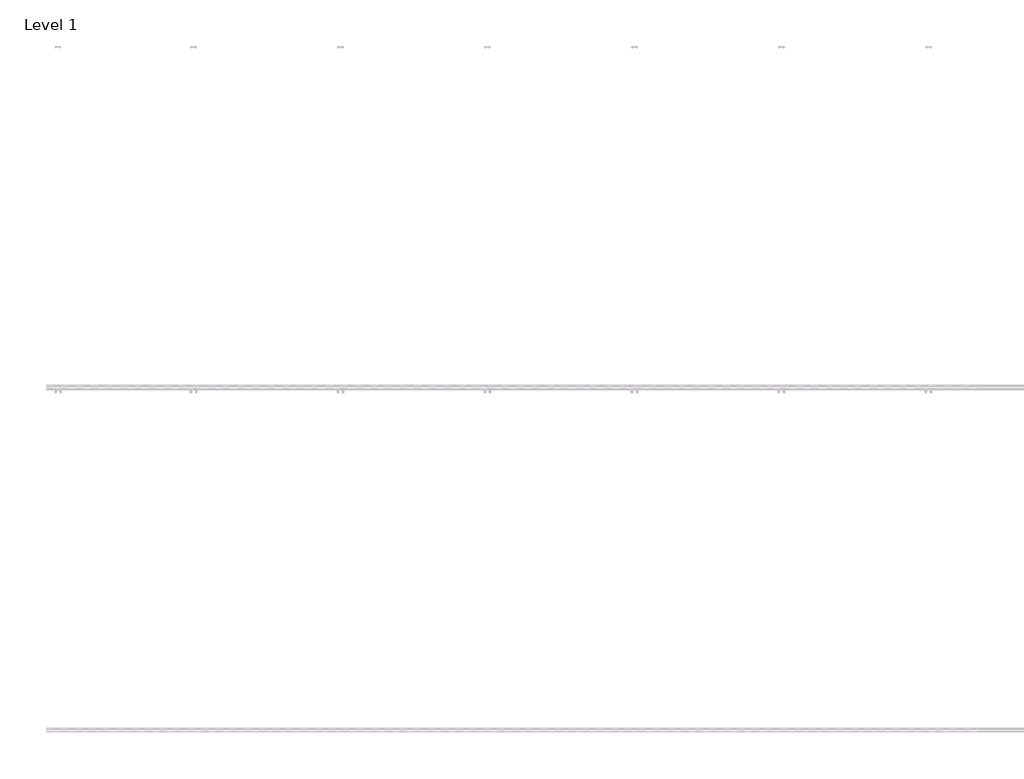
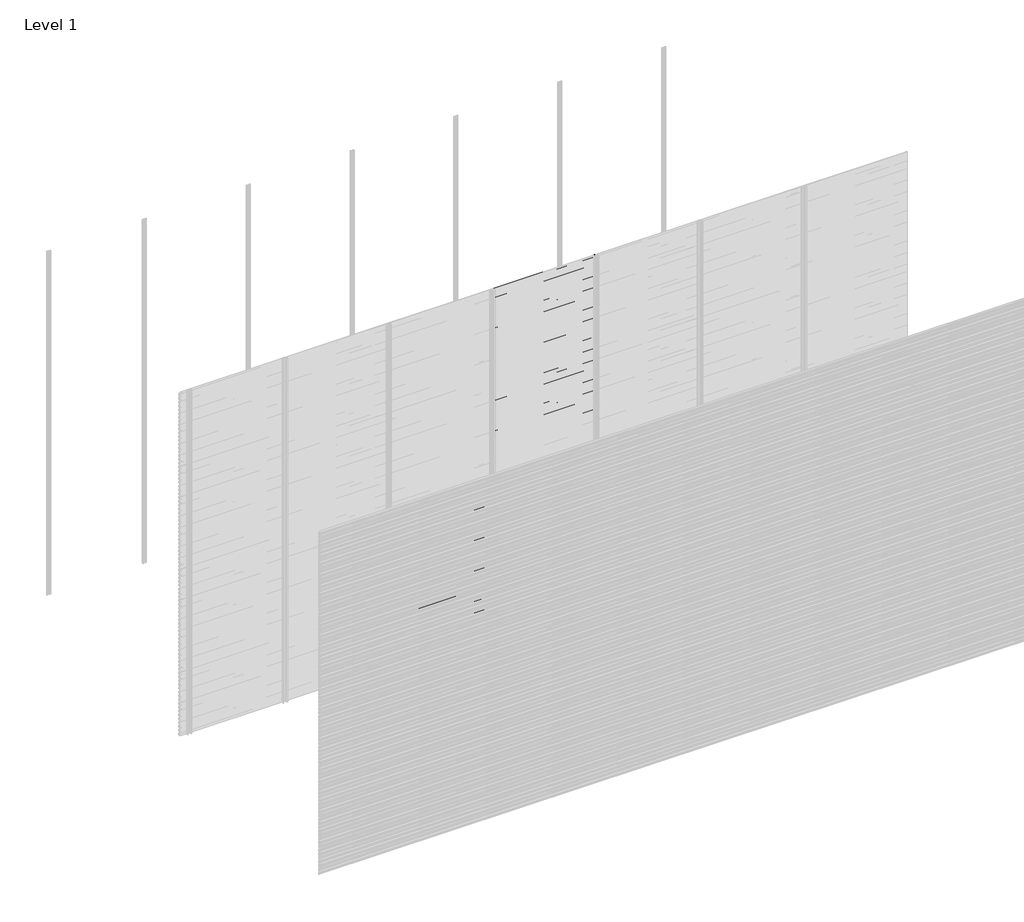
# One storey, part 83 of 96: 77 proxies.
"""IFC4 building model written with IfcOpenShell, lengths in millimetres."""

from ifc_helpers import new_model, si_unit, frame, origin, place, context, project, spatial, polyline, outline, extrude, element, save

model = new_model("IFC4")

# Units and contexts
model_context = context("Model", 3, world=origin())
ifc_project = project(units=[si_unit("LENGTHUNIT", "METRE", prefix="MILLI")], contexts=[model_context])

# Site, building, storey
site = spatial("IfcSite", under=ifc_project)
building = spatial("IfcBuilding", under=site)
storey = spatial("IfcBuildingStorey", under=building, Name="Level 1", Elevation=0.0)

# Proxies
placement = place(None, origin())
element("IfcBuildingElementProxy", 1, Name="Wall Sweeps", at=placement, inside=storey, context=model_context, shape_type="SweptSolid", body=[
    extrude(outline(polyline([(-5977.6, 1140.2655033), (-5977.6, 1125.9779188), (-5982.4114965, 1123.2), (-5982.4114965, 1124.4701706), (-5978.85, 1126.5264016), (-5978.85, 1139.5437382), (-5998.0, 1150.6000799), (-5998.0, 1165.5), (-5996.75, 1165.5), (-5996.75, 1151.3217609), (-5977.6, 1140.2655033)])), frame((1714.2857143, 0.0, 0.0), z_axis=(1.0, 0.0, 0.0), x_axis=(0.0, 1.0, 0.0)), (0.0, 0.0, 1.0), 857.1428571),
])
element("IfcBuildingElementProxy", 2, Name="Wall Sweeps", at=placement, inside=storey, context=model_context, shape_type="SweptSolid", body=[
    extrude(outline(polyline([(-5977.6, 1106.9655033), (-5977.6, 1092.6779188), (-5982.4114965, 1089.9), (-5982.4114965, 1091.1701706), (-5978.85, 1093.2264016), (-5978.85, 1106.2437382), (-5998.0, 1117.3000799), (-5998.0, 1132.2), (-5996.75, 1132.2), (-5996.75, 1118.0217609), (-5977.6, 1106.9655033)])), frame((1714.2857143, 0.0, 0.0), z_axis=(1.0, 0.0, 0.0), x_axis=(0.0, 1.0, 0.0)), (0.0, 0.0, 1.0), 857.1428571),
])
element("IfcBuildingElementProxy", 3, Name="Wall Sweeps", at=placement, inside=storey, context=model_context, shape_type="SweptSolid", body=[
    extrude(outline(polyline([(-5977.6, 1073.6655033), (-5977.6, 1059.3779188), (-5982.4114965, 1056.6), (-5982.4114965, 1057.8701706), (-5978.85, 1059.9264016), (-5978.85, 1072.9437382), (-5998.0, 1084.0000799), (-5998.0, 1098.9), (-5996.75, 1098.9), (-5996.75, 1084.7217609), (-5977.6, 1073.6655033)])), frame((1714.2857143, 0.0, 0.0), z_axis=(1.0, 0.0, 0.0), x_axis=(0.0, 1.0, 0.0)), (0.0, 0.0, 1.0), 857.1428571),
])
element("IfcBuildingElementProxy", 4, Name="Wall Sweeps", at=placement, inside=storey, context=model_context, shape_type="SweptSolid", body=[
    extrude(outline(polyline([(-5977.6, 1040.3655033), (-5977.6, 1026.0779188), (-5982.4114965, 1023.3), (-5982.4114965, 1024.5701706), (-5978.85, 1026.6264016), (-5978.85, 1039.6437382), (-5998.0, 1050.7000799), (-5998.0, 1065.6), (-5996.75, 1065.6), (-5996.75, 1051.4217609), (-5977.6, 1040.3655033)])), frame((1714.2857143, 0.0, 0.0), z_axis=(1.0, 0.0, 0.0), x_axis=(0.0, 1.0, 0.0)), (0.0, 0.0, 1.0), 857.1428571),
])
element("IfcBuildingElementProxy", 5, Name="Wall Sweeps", at=placement, inside=storey, context=model_context, shape_type="SweptSolid", body=[
    extrude(outline(polyline([(-5977.6, 1007.0655033), (-5977.6, 992.7779188), (-5982.4114965, 990.0), (-5982.4114965, 991.2701706), (-5978.85, 993.3264016), (-5978.85, 1006.3437382), (-5998.0, 1017.4000799), (-5998.0, 1032.3), (-5996.75, 1032.3), (-5996.75, 1018.1217609), (-5977.6, 1007.0655033)])), frame((1714.2857143, 0.0, 0.0), z_axis=(1.0, 0.0, 0.0), x_axis=(0.0, 1.0, 0.0)), (0.0, 0.0, 1.0), 857.1428571),
])
element("IfcBuildingElementProxy", 6, Name="Wall Sweeps", at=placement, inside=storey, context=model_context, shape_type="SweptSolid", body=[
    extrude(outline(polyline([(-5977.6, 973.7655033), (-5977.6, 959.4779188), (-5982.4114965, 956.7), (-5982.4114965, 957.9701706), (-5978.85, 960.0264016), (-5978.85, 973.0437382), (-5998.0, 984.1000799), (-5998.0, 999.0), (-5996.75, 999.0), (-5996.75, 984.8217609), (-5977.6, 973.7655033)])), frame((1714.2857143, 0.0, 0.0), z_axis=(1.0, 0.0, 0.0), x_axis=(0.0, 1.0, 0.0)), (0.0, 0.0, 1.0), 857.1428571),
])
element("IfcBuildingElementProxy", 7, Name="Wall Sweeps", at=placement, inside=storey, context=model_context, shape_type="SweptSolid", body=[
    extrude(outline(polyline([(-5977.6, 940.4655033), (-5977.6, 926.1779188), (-5982.4114965, 923.4), (-5982.4114965, 924.6701706), (-5978.85, 926.7264016), (-5978.85, 939.7437382), (-5998.0, 950.8000799), (-5998.0, 965.7), (-5996.75, 965.7), (-5996.75, 951.5217609), (-5977.6, 940.4655033)])), frame((1714.2857143, 0.0, 0.0), z_axis=(1.0, 0.0, 0.0), x_axis=(0.0, 1.0, 0.0)), (0.0, 0.0, 1.0), 857.1428571),
])
element("IfcBuildingElementProxy", 8, Name="Wall Sweeps", at=placement, inside=storey, context=model_context, shape_type="SweptSolid", body=[
    extrude(outline(polyline([(-5977.6, 907.1655033), (-5977.6, 892.8779188), (-5982.4114965, 890.1), (-5982.4114965, 891.3701706), (-5978.85, 893.4264016), (-5978.85, 906.4437382), (-5998.0, 917.5000799), (-5998.0, 932.4), (-5996.75, 932.4), (-5996.75, 918.2217609), (-5977.6, 907.1655033)])), frame((1714.2857143, 0.0, 0.0), z_axis=(1.0, 0.0, 0.0), x_axis=(0.0, 1.0, 0.0)), (0.0, 0.0, 1.0), 857.1428571),
])
element("IfcBuildingElementProxy", 9, Name="Wall Sweeps", at=placement, inside=storey, context=model_context, shape_type="SweptSolid", body=[
    extrude(outline(polyline([(-5977.6, 873.8655033), (-5977.6, 859.5779188), (-5982.4114965, 856.8), (-5982.4114965, 858.0701706), (-5978.85, 860.1264016), (-5978.85, 873.1437382), (-5998.0, 884.2000799), (-5998.0, 899.1), (-5996.75, 899.1), (-5996.75, 884.9217609), (-5977.6, 873.8655033)])), frame((1714.2857143, 0.0, 0.0), z_axis=(1.0, 0.0, 0.0), x_axis=(0.0, 1.0, 0.0)), (0.0, 0.0, 1.0), 857.1428571),
])
element("IfcBuildingElementProxy", 10, Name="Wall Sweeps", at=placement, inside=storey, context=model_context, shape_type="SweptSolid", body=[
    extrude(outline(polyline([(-5977.6, 840.5655033), (-5977.6, 826.2779188), (-5982.4114965, 823.5), (-5982.4114965, 824.7701706), (-5978.85, 826.8264016), (-5978.85, 839.8437382), (-5998.0, 850.9000799), (-5998.0, 865.8), (-5996.75, 865.8), (-5996.75, 851.6217609), (-5977.6, 840.5655033)])), frame((1714.2857143, 0.0, 0.0), z_axis=(1.0, 0.0, 0.0), x_axis=(0.0, 1.0, 0.0)), (0.0, 0.0, 1.0), 857.1428571),
])
element("IfcBuildingElementProxy", 11, Name="Wall Sweeps", at=placement, inside=storey, context=model_context, shape_type="SweptSolid", body=[
    extrude(outline(polyline([(-5977.6, 807.2655033), (-5977.6, 792.9779188), (-5982.4114965, 790.2), (-5982.4114965, 791.4701706), (-5978.85, 793.5264016), (-5978.85, 806.5437382), (-5998.0, 817.6000799), (-5998.0, 832.5), (-5996.75, 832.5), (-5996.75, 818.3217609), (-5977.6, 807.2655033)])), frame((1714.2857143, 0.0, 0.0), z_axis=(1.0, 0.0, 0.0), x_axis=(0.0, 1.0, 0.0)), (0.0, 0.0, 1.0), 857.1428571),
])
element("IfcBuildingElementProxy", 12, Name="Wall Sweeps", at=placement, inside=storey, context=model_context, shape_type="SweptSolid", body=[
    extrude(outline(polyline([(-5977.6, 773.9655033), (-5977.6, 759.6779188), (-5982.4114965, 756.9), (-5982.4114965, 758.1701706), (-5978.85, 760.2264016), (-5978.85, 773.2437382), (-5998.0, 784.3000799), (-5998.0, 799.2), (-5996.75, 799.2), (-5996.75, 785.0217609), (-5977.6, 773.9655033)])), frame((1714.2857143, 0.0, 0.0), z_axis=(1.0, 0.0, 0.0), x_axis=(0.0, 1.0, 0.0)), (0.0, 0.0, 1.0), 857.1428571),
])
element("IfcBuildingElementProxy", 13, Name="Wall Sweeps", at=placement, inside=storey, context=model_context, shape_type="SweptSolid", body=[
    extrude(outline(polyline([(-5977.6, 740.6655033), (-5977.6, 726.3779188), (-5982.4114965, 723.6), (-5982.4114965, 724.8701706), (-5978.85, 726.9264016), (-5978.85, 739.9437382), (-5998.0, 751.0000799), (-5998.0, 765.9), (-5996.75, 765.9), (-5996.75, 751.7217609), (-5977.6, 740.6655033)])), frame((1714.2857143, 0.0, 0.0), z_axis=(1.0, 0.0, 0.0), x_axis=(0.0, 1.0, 0.0)), (0.0, 0.0, 1.0), 857.1428571),
])
element("IfcBuildingElementProxy", 14, Name="Wall Sweeps", at=placement, inside=storey, context=model_context, shape_type="SweptSolid", body=[
    extrude(outline(polyline([(-5977.6, 707.3655033), (-5977.6, 693.0779188), (-5982.4114965, 690.3), (-5982.4114965, 691.5701706), (-5978.85, 693.6264016), (-5978.85, 706.6437382), (-5998.0, 717.7000799), (-5998.0, 732.6), (-5996.75, 732.6), (-5996.75, 718.4217609), (-5977.6, 707.3655033)])), frame((1714.2857143, 0.0, 0.0), z_axis=(1.0, 0.0, 0.0), x_axis=(0.0, 1.0, 0.0)), (0.0, 0.0, 1.0), 857.1428571),
])
element("IfcBuildingElementProxy", 15, Name="Wall Sweeps", at=placement, inside=storey, context=model_context, shape_type="SweptSolid", body=[
    extrude(outline(polyline([(-5977.6, 674.0655033), (-5977.6, 659.7779188), (-5982.4114965, 657.0), (-5982.4114965, 658.2701706), (-5978.85, 660.3264016), (-5978.85, 673.3437382), (-5998.0, 684.4000799), (-5998.0, 699.3), (-5996.75, 699.3), (-5996.75, 685.1217609), (-5977.6, 674.0655033)])), frame((1714.2857143, 0.0, 0.0), z_axis=(1.0, 0.0, 0.0), x_axis=(0.0, 1.0, 0.0)), (0.0, 0.0, 1.0), 857.1428571),
])
element("IfcBuildingElementProxy", 16, Name="Wall Sweeps", at=placement, inside=storey, context=model_context, shape_type="SweptSolid", body=[
    extrude(outline(polyline([(-5977.6, 640.7655033), (-5977.6, 626.4779188), (-5982.4114965, 623.7), (-5982.4114965, 624.9701706), (-5978.85, 627.0264016), (-5978.85, 640.0437382), (-5998.0, 651.1000799), (-5998.0, 666.0), (-5996.75, 666.0), (-5996.75, 651.8217609), (-5977.6, 640.7655033)])), frame((1714.2857143, 0.0, 0.0), z_axis=(1.0, 0.0, 0.0), x_axis=(0.0, 1.0, 0.0)), (0.0, 0.0, 1.0), 857.1428571),
])
element("IfcBuildingElementProxy", 17, Name="Wall Sweeps", at=placement, inside=storey, context=model_context, shape_type="SweptSolid", body=[
    extrude(outline(polyline([(-5977.6, 607.4655033), (-5977.6, 593.1779188), (-5982.4114965, 590.4), (-5982.4114965, 591.6701706), (-5978.85, 593.7264016), (-5978.85, 606.7437382), (-5998.0, 617.8000799), (-5998.0, 632.7), (-5996.75, 632.7), (-5996.75, 618.5217609), (-5977.6, 607.4655033)])), frame((1714.2857143, 0.0, 0.0), z_axis=(1.0, 0.0, 0.0), x_axis=(0.0, 1.0, 0.0)), (0.0, 0.0, 1.0), 857.1428571),
])
element("IfcBuildingElementProxy", 18, Name="Wall Sweeps", at=placement, inside=storey, context=model_context, shape_type="SweptSolid", body=[
    extrude(outline(polyline([(-5977.6, 574.1655033), (-5977.6, 559.8779188), (-5982.4114965, 557.1), (-5982.4114965, 558.3701706), (-5978.85, 560.4264016), (-5978.85, 573.4437382), (-5998.0, 584.5000799), (-5998.0, 599.4), (-5996.75, 599.4), (-5996.75, 585.2217609), (-5977.6, 574.1655033)])), frame((1714.2857143, 0.0, 0.0), z_axis=(1.0, 0.0, 0.0), x_axis=(0.0, 1.0, 0.0)), (0.0, 0.0, 1.0), 857.1428571),
])
element("IfcBuildingElementProxy", 19, Name="Wall Sweeps", at=placement, inside=storey, context=model_context, shape_type="SweptSolid", body=[
    extrude(outline(polyline([(-5977.6, 540.8655033), (-5977.6, 526.5779188), (-5982.4114965, 523.8), (-5982.4114965, 525.0701706), (-5978.85, 527.1264016), (-5978.85, 540.1437382), (-5998.0, 551.2000799), (-5998.0, 566.1), (-5996.75, 566.1), (-5996.75, 551.9217609), (-5977.6, 540.8655033)])), frame((1714.2857143, 0.0, 0.0), z_axis=(1.0, 0.0, 0.0), x_axis=(0.0, 1.0, 0.0)), (0.0, 0.0, 1.0), 857.1428571),
])
element("IfcBuildingElementProxy", 20, Name="Wall Sweeps", at=placement, inside=storey, context=model_context, shape_type="SweptSolid", body=[
    extrude(outline(polyline([(-5977.6, 507.5655033), (-5977.6, 493.2779188), (-5982.4114965, 490.5), (-5982.4114965, 491.7701706), (-5978.85, 493.8264016), (-5978.85, 506.8437382), (-5998.0, 517.9000799), (-5998.0, 532.8), (-5996.75, 532.8), (-5996.75, 518.6217609), (-5977.6, 507.5655033)])), frame((1714.2857143, 0.0, 0.0), z_axis=(1.0, 0.0, 0.0), x_axis=(0.0, 1.0, 0.0)), (0.0, 0.0, 1.0), 857.1428571),
])
element("IfcBuildingElementProxy", 21, Name="Wall Sweeps", at=placement, inside=storey, context=model_context, shape_type="SweptSolid", body=[
    extrude(outline(polyline([(-5977.6, 474.2655033), (-5977.6, 459.9779188), (-5982.4114965, 457.2), (-5982.4114965, 458.4701706), (-5978.85, 460.5264016), (-5978.85, 473.5437382), (-5998.0, 484.6000799), (-5998.0, 499.5), (-5996.75, 499.5), (-5996.75, 485.3217609), (-5977.6, 474.2655033)])), frame((1714.2857143, 0.0, 0.0), z_axis=(1.0, 0.0, 0.0), x_axis=(0.0, 1.0, 0.0)), (0.0, 0.0, 1.0), 857.1428571),
])
element("IfcBuildingElementProxy", 22, Name="Wall Sweeps", at=placement, inside=storey, context=model_context, shape_type="SweptSolid", body=[
    extrude(outline(polyline([(-5977.6, 440.9655033), (-5977.6, 426.6779188), (-5982.4114965, 423.9), (-5982.4114965, 425.1701706), (-5978.85, 427.2264016), (-5978.85, 440.2437382), (-5998.0, 451.3000799), (-5998.0, 466.2), (-5996.75, 466.2), (-5996.75, 452.0217609), (-5977.6, 440.9655033)])), frame((1714.2857143, 0.0, 0.0), z_axis=(1.0, 0.0, 0.0), x_axis=(0.0, 1.0, 0.0)), (0.0, 0.0, 1.0), 857.1428571),
])
element("IfcBuildingElementProxy", 23, Name="Wall Sweeps", at=placement, inside=storey, context=model_context, shape_type="SweptSolid", body=[
    extrude(outline(polyline([(-5977.6, 407.6655033), (-5977.6, 393.3779188), (-5982.4114965, 390.6), (-5982.4114965, 391.8701706), (-5978.85, 393.9264016), (-5978.85, 406.9437382), (-5998.0, 418.0000799), (-5998.0, 432.9), (-5996.75, 432.9), (-5996.75, 418.7217609), (-5977.6, 407.6655033)])), frame((1714.2857143, 0.0, 0.0), z_axis=(1.0, 0.0, 0.0), x_axis=(0.0, 1.0, 0.0)), (0.0, 0.0, 1.0), 857.1428571),
])
element("IfcBuildingElementProxy", 24, Name="Wall Sweeps", at=placement, inside=storey, context=model_context, shape_type="SweptSolid", body=[
    extrude(outline(polyline([(-5977.6, 374.3655033), (-5977.6, 360.0779188), (-5982.4114965, 357.3), (-5982.4114965, 358.5701706), (-5978.85, 360.6264016), (-5978.85, 373.6437382), (-5998.0, 384.7000799), (-5998.0, 399.6), (-5996.75, 399.6), (-5996.75, 385.4217609), (-5977.6, 374.3655033)])), frame((1714.2857143, 0.0, 0.0), z_axis=(1.0, 0.0, 0.0), x_axis=(0.0, 1.0, 0.0)), (0.0, 0.0, 1.0), 857.1428571),
])
element("IfcBuildingElementProxy", 25, Name="Wall Sweeps", at=placement, inside=storey, context=model_context, shape_type="SweptSolid", body=[
    extrude(outline(polyline([(-5977.6, 341.0655033), (-5977.6, 326.7779188), (-5982.4114965, 324.0), (-5982.4114965, 325.2701706), (-5978.85, 327.3264016), (-5978.85, 340.3437382), (-5998.0, 351.4000799), (-5998.0, 366.3), (-5996.75, 366.3), (-5996.75, 352.1217609), (-5977.6, 341.0655033)])), frame((1714.2857143, 0.0, 0.0), z_axis=(1.0, 0.0, 0.0), x_axis=(0.0, 1.0, 0.0)), (0.0, 0.0, 1.0), 857.1428571),
])
element("IfcBuildingElementProxy", 26, Name="Wall Sweeps", at=placement, inside=storey, context=model_context, shape_type="SweptSolid", body=[
    extrude(outline(polyline([(-5977.6, 307.7655033), (-5977.6, 293.4779188), (-5982.4114965, 290.7), (-5982.4114965, 291.9701706), (-5978.85, 294.0264016), (-5978.85, 307.0437382), (-5998.0, 318.1000799), (-5998.0, 333.0), (-5996.75, 333.0), (-5996.75, 318.8217609), (-5977.6, 307.7655033)])), frame((1714.2857143, 0.0, 0.0), z_axis=(1.0, 0.0, 0.0), x_axis=(0.0, 1.0, 0.0)), (0.0, 0.0, 1.0), 857.1428571),
])
element("IfcBuildingElementProxy", 27, Name="Wall Sweeps", at=placement, inside=storey, context=model_context, shape_type="SweptSolid", body=[
    extrude(outline(polyline([(-5977.6, 274.4655033), (-5977.6, 260.1779188), (-5982.4114965, 257.4), (-5982.4114965, 258.6701706), (-5978.85, 260.7264016), (-5978.85, 273.7437382), (-5998.0, 284.8000799), (-5998.0, 299.7), (-5996.75, 299.7), (-5996.75, 285.5217609), (-5977.6, 274.4655033)])), frame((1714.2857143, 0.0, 0.0), z_axis=(1.0, 0.0, 0.0), x_axis=(0.0, 1.0, 0.0)), (0.0, 0.0, 1.0), 857.1428571),
])
element("IfcBuildingElementProxy", 28, Name="Wall Sweeps", at=placement, inside=storey, context=model_context, shape_type="SweptSolid", body=[
    extrude(outline(polyline([(-5977.6, 241.1655033), (-5977.6, 226.8779188), (-5982.4114965, 224.1), (-5982.4114965, 225.3701706), (-5978.85, 227.4264016), (-5978.85, 240.4437382), (-5998.0, 251.5000799), (-5998.0, 266.4), (-5996.75, 266.4), (-5996.75, 252.2217609), (-5977.6, 241.1655033)])), frame((1714.2857143, 0.0, 0.0), z_axis=(1.0, 0.0, 0.0), x_axis=(0.0, 1.0, 0.0)), (0.0, 0.0, 1.0), 857.1428571),
])
element("IfcBuildingElementProxy", 29, Name="Wall Sweeps", at=placement, inside=storey, context=model_context, shape_type="SweptSolid", body=[
    extrude(outline(polyline([(-5977.6, 207.8655033), (-5977.6, 193.5779188), (-5982.4114965, 190.8), (-5982.4114965, 192.0701706), (-5978.85, 194.1264016), (-5978.85, 207.1437382), (-5998.0, 218.2000799), (-5998.0, 233.1), (-5996.75, 233.1), (-5996.75, 218.9217609), (-5977.6, 207.8655033)])), frame((1714.2857143, 0.0, 0.0), z_axis=(1.0, 0.0, 0.0), x_axis=(0.0, 1.0, 0.0)), (0.0, 0.0, 1.0), 857.1428571),
])
element("IfcBuildingElementProxy", 30, Name="Wall Sweeps", at=placement, inside=storey, context=model_context, shape_type="SweptSolid", body=[
    extrude(outline(polyline([(-5977.6, 174.5655033), (-5977.6, 160.2779188), (-5982.4114965, 157.5), (-5982.4114965, 158.7701706), (-5978.85, 160.8264016), (-5978.85, 173.8437382), (-5998.0, 184.9000799), (-5998.0, 199.8), (-5996.75, 199.8), (-5996.75, 185.6217609), (-5977.6, 174.5655033)])), frame((1714.2857143, 0.0, 0.0), z_axis=(1.0, 0.0, 0.0), x_axis=(0.0, 1.0, 0.0)), (0.0, 0.0, 1.0), 857.1428571),
])
element("IfcBuildingElementProxy", 31, Name="Wall Sweeps", at=placement, inside=storey, context=model_context, shape_type="SweptSolid", body=[
    extrude(outline(polyline([(-5977.6, 141.2655033), (-5977.6, 126.9779188), (-5982.4114965, 124.2), (-5982.4114965, 125.4701706), (-5978.85, 127.5264016), (-5978.85, 140.5437382), (-5998.0, 151.6000799), (-5998.0, 166.5), (-5996.75, 166.5), (-5996.75, 152.3217609), (-5977.6, 141.2655033)])), frame((1714.2857143, 0.0, 0.0), z_axis=(1.0, 0.0, 0.0), x_axis=(0.0, 1.0, 0.0)), (0.0, 0.0, 1.0), 857.1428571),
])
element("IfcBuildingElementProxy", 32, Name="Wall Sweeps", at=placement, inside=storey, context=model_context, shape_type="SweptSolid", body=[
    extrude(outline(polyline([(-5977.6, 107.9655033), (-5977.6, 93.6779188), (-5982.4114965, 90.9), (-5982.4114965, 92.1701706), (-5978.85, 94.2264016), (-5978.85, 107.2437382), (-5998.0, 118.3000799), (-5998.0, 133.2), (-5996.75, 133.2), (-5996.75, 119.0217609), (-5977.6, 107.9655033)])), frame((1714.2857143, 0.0, 0.0), z_axis=(1.0, 0.0, 0.0), x_axis=(0.0, 1.0, 0.0)), (0.0, 0.0, 1.0), 857.1428571),
])
element("IfcBuildingElementProxy", 33, Name="Wall Sweeps", at=placement, inside=storey, context=model_context, shape_type="SweptSolid", body=[
    extrude(outline(polyline([(-5977.6, 74.6655033), (-5977.6, 60.3779188), (-5982.4114965, 57.6), (-5982.4114965, 58.8701706), (-5978.85, 60.9264016), (-5978.85, 73.9437382), (-5998.0, 85.0000799), (-5998.0, 99.9), (-5996.75, 99.9), (-5996.75, 85.7217609), (-5977.6, 74.6655033)])), frame((1714.2857143, 0.0, 0.0), z_axis=(1.0, 0.0, 0.0), x_axis=(0.0, 1.0, 0.0)), (0.0, 0.0, 1.0), 857.1428571),
])
element("IfcBuildingElementProxy", 34, Name="Wall Sweeps", at=placement, inside=storey, context=model_context, shape_type="SweptSolid", body=[
    extrude(outline(polyline([(-5977.6, 41.3655033), (-5977.6, 27.0779188), (-5982.4114965, 24.3), (-5982.4114965, 25.5701706), (-5978.85, 27.6264016), (-5978.85, 40.6437382), (-5998.0, 51.7000799), (-5998.0, 66.6), (-5996.75, 66.6), (-5996.75, 52.4217609), (-5977.6, 41.3655033)])), frame((1714.2857143, 0.0, 0.0), z_axis=(1.0, 0.0, 0.0), x_axis=(0.0, 1.0, 0.0)), (0.0, 0.0, 1.0), 857.1428571),
])
element("IfcBuildingElementProxy", 35, Name="Wall Sweeps", at=placement, inside=storey, context=model_context, shape_type="SweptSolid", body=[
    extrude(outline(polyline([(-5977.6, 8.0655033), (-5977.6, -6.2220812), (-5982.4114965, -9.0), (-5982.4114965, -7.7298294), (-5978.85, -5.6735984), (-5978.85, 7.3437382), (-5998.0, 18.4000799), (-5998.0, 33.3), (-5996.75, 33.3), (-5996.75, 19.1217609), (-5977.6, 8.0655033)])), frame((1714.2857143, 0.0, 0.0), z_axis=(1.0, 0.0, 0.0), x_axis=(0.0, 1.0, 0.0)), (0.0, 0.0, 1.0), 857.1428571),
])
element("IfcBuildingElementProxy", 36, Name="Wall Sweeps", at=placement, inside=storey, context=model_context, shape_type="SweptSolid", body=[
    extrude(outline(polyline([(-5977.6, 2971.7655033), (-5977.6, 2957.4779188), (-5982.4114965, 2954.7), (-5982.4114965, 2955.9701706), (-5978.85, 2958.0264016), (-5978.85, 2971.0437382), (-5998.0, 2982.1000799), (-5998.0, 2997.0), (-5996.75, 2997.0), (-5996.75, 2982.8217609), (-5977.6, 2971.7655033)])), frame((2571.4285714, 0.0, 0.0), z_axis=(1.0, 0.0, 0.0), x_axis=(0.0, 1.0, 0.0)), (0.0, 0.0, 1.0), 857.1428571),
])
element("IfcBuildingElementProxy", 37, Name="Wall Sweeps", at=placement, inside=storey, context=model_context, shape_type="SweptSolid", body=[
    extrude(outline(polyline([(-5977.6, 2938.4655033), (-5977.6, 2924.1779188), (-5982.4114965, 2921.4), (-5982.4114965, 2922.6701706), (-5978.85, 2924.7264016), (-5978.85, 2937.7437382), (-5998.0, 2948.8000799), (-5998.0, 2963.7), (-5996.75, 2963.7), (-5996.75, 2949.5217609), (-5977.6, 2938.4655033)])), frame((2571.4285714, 0.0, 0.0), z_axis=(1.0, 0.0, 0.0), x_axis=(0.0, 1.0, 0.0)), (0.0, 0.0, 1.0), 857.1428571),
])
element("IfcBuildingElementProxy", 38, Name="Wall Sweeps", at=placement, inside=storey, context=model_context, shape_type="SweptSolid", body=[
    extrude(outline(polyline([(-5977.6, 2905.1655033), (-5977.6, 2890.8779188), (-5982.4114965, 2888.1), (-5982.4114965, 2889.3701706), (-5978.85, 2891.4264016), (-5978.85, 2904.4437382), (-5998.0, 2915.5000799), (-5998.0, 2930.4), (-5996.75, 2930.4), (-5996.75, 2916.2217609), (-5977.6, 2905.1655033)])), frame((2571.4285714, 0.0, 0.0), z_axis=(1.0, 0.0, 0.0), x_axis=(0.0, 1.0, 0.0)), (0.0, 0.0, 1.0), 857.1428571),
])
element("IfcBuildingElementProxy", 39, Name="Wall Sweeps", at=placement, inside=storey, context=model_context, shape_type="SweptSolid", body=[
    extrude(outline(polyline([(-5977.6, 2871.8655033), (-5977.6, 2857.5779188), (-5982.4114965, 2854.8), (-5982.4114965, 2856.0701706), (-5978.85, 2858.1264016), (-5978.85, 2871.1437382), (-5998.0, 2882.2000799), (-5998.0, 2897.1), (-5996.75, 2897.1), (-5996.75, 2882.9217609), (-5977.6, 2871.8655033)])), frame((2571.4285714, 0.0, 0.0), z_axis=(1.0, 0.0, 0.0), x_axis=(0.0, 1.0, 0.0)), (0.0, 0.0, 1.0), 857.1428571),
])
element("IfcBuildingElementProxy", 40, Name="Wall Sweeps", at=placement, inside=storey, context=model_context, shape_type="SweptSolid", body=[
    extrude(outline(polyline([(-5977.6, 2838.5655033), (-5977.6, 2824.2779188), (-5982.4114965, 2821.5), (-5982.4114965, 2822.7701706), (-5978.85, 2824.8264016), (-5978.85, 2837.8437382), (-5998.0, 2848.9000799), (-5998.0, 2863.8), (-5996.75, 2863.8), (-5996.75, 2849.6217609), (-5977.6, 2838.5655033)])), frame((2571.4285714, 0.0, 0.0), z_axis=(1.0, 0.0, 0.0), x_axis=(0.0, 1.0, 0.0)), (0.0, 0.0, 1.0), 857.1428571),
])
element("IfcBuildingElementProxy", 41, Name="Wall Sweeps", at=placement, inside=storey, context=model_context, shape_type="SweptSolid", body=[
    extrude(outline(polyline([(-5977.6, 2805.2655033), (-5977.6, 2790.9779188), (-5982.4114965, 2788.2), (-5982.4114965, 2789.4701706), (-5978.85, 2791.5264016), (-5978.85, 2804.5437382), (-5998.0, 2815.6000799), (-5998.0, 2830.5), (-5996.75, 2830.5), (-5996.75, 2816.3217609), (-5977.6, 2805.2655033)])), frame((2571.4285714, 0.0, 0.0), z_axis=(1.0, 0.0, 0.0), x_axis=(0.0, 1.0, 0.0)), (0.0, 0.0, 1.0), 857.1428571),
])
element("IfcBuildingElementProxy", 42, Name="Wall Sweeps", at=placement, inside=storey, context=model_context, shape_type="SweptSolid", body=[
    extrude(outline(polyline([(-5977.6, 2771.9655033), (-5977.6, 2757.6779188), (-5982.4114965, 2754.9), (-5982.4114965, 2756.1701706), (-5978.85, 2758.2264016), (-5978.85, 2771.2437382), (-5998.0, 2782.3000799), (-5998.0, 2797.2), (-5996.75, 2797.2), (-5996.75, 2783.0217609), (-5977.6, 2771.9655033)])), frame((2571.4285714, 0.0, 0.0), z_axis=(1.0, 0.0, 0.0), x_axis=(0.0, 1.0, 0.0)), (0.0, 0.0, 1.0), 857.1428571),
])
element("IfcBuildingElementProxy", 43, Name="Wall Sweeps", at=placement, inside=storey, context=model_context, shape_type="SweptSolid", body=[
    extrude(outline(polyline([(-5977.6, 2738.6655033), (-5977.6, 2724.3779188), (-5982.4114965, 2721.6), (-5982.4114965, 2722.8701706), (-5978.85, 2724.9264016), (-5978.85, 2737.9437382), (-5998.0, 2749.0000799), (-5998.0, 2763.9), (-5996.75, 2763.9), (-5996.75, 2749.7217609), (-5977.6, 2738.6655033)])), frame((2571.4285714, 0.0, 0.0), z_axis=(1.0, 0.0, 0.0), x_axis=(0.0, 1.0, 0.0)), (0.0, 0.0, 1.0), 857.1428571),
])
element("IfcBuildingElementProxy", 44, Name="Wall Sweeps", at=placement, inside=storey, context=model_context, shape_type="SweptSolid", body=[
    extrude(outline(polyline([(-5977.6, 2705.3655033), (-5977.6, 2691.0779188), (-5982.4114965, 2688.3), (-5982.4114965, 2689.5701706), (-5978.85, 2691.6264016), (-5978.85, 2704.6437382), (-5998.0, 2715.7000799), (-5998.0, 2730.6), (-5996.75, 2730.6), (-5996.75, 2716.4217609), (-5977.6, 2705.3655033)])), frame((2571.4285714, 0.0, 0.0), z_axis=(1.0, 0.0, 0.0), x_axis=(0.0, 1.0, 0.0)), (0.0, 0.0, 1.0), 857.1428571),
])
element("IfcBuildingElementProxy", 45, Name="Wall Sweeps", at=placement, inside=storey, context=model_context, shape_type="SweptSolid", body=[
    extrude(outline(polyline([(-5977.6, 2672.0655033), (-5977.6, 2657.7779188), (-5982.4114965, 2655.0), (-5982.4114965, 2656.2701706), (-5978.85, 2658.3264016), (-5978.85, 2671.3437382), (-5998.0, 2682.4000799), (-5998.0, 2697.3), (-5996.75, 2697.3), (-5996.75, 2683.1217609), (-5977.6, 2672.0655033)])), frame((2571.4285714, 0.0, 0.0), z_axis=(1.0, 0.0, 0.0), x_axis=(0.0, 1.0, 0.0)), (0.0, 0.0, 1.0), 857.1428571),
])
element("IfcBuildingElementProxy", 46, Name="Wall Sweeps", at=placement, inside=storey, context=model_context, shape_type="SweptSolid", body=[
    extrude(outline(polyline([(-5977.6, 2638.7655033), (-5977.6, 2624.4779188), (-5982.4114965, 2621.7), (-5982.4114965, 2622.9701706), (-5978.85, 2625.0264016), (-5978.85, 2638.0437382), (-5998.0, 2649.1000799), (-5998.0, 2664.0), (-5996.75, 2664.0), (-5996.75, 2649.8217609), (-5977.6, 2638.7655033)])), frame((2571.4285714, 0.0, 0.0), z_axis=(1.0, 0.0, 0.0), x_axis=(0.0, 1.0, 0.0)), (0.0, 0.0, 1.0), 857.1428571),
])
element("IfcBuildingElementProxy", 47, Name="Wall Sweeps", at=placement, inside=storey, context=model_context, shape_type="SweptSolid", body=[
    extrude(outline(polyline([(-5977.6, 2605.4655033), (-5977.6, 2591.1779188), (-5982.4114965, 2588.4), (-5982.4114965, 2589.6701706), (-5978.85, 2591.7264016), (-5978.85, 2604.7437382), (-5998.0, 2615.8000799), (-5998.0, 2630.7), (-5996.75, 2630.7), (-5996.75, 2616.5217609), (-5977.6, 2605.4655033)])), frame((2571.4285714, 0.0, 0.0), z_axis=(1.0, 0.0, 0.0), x_axis=(0.0, 1.0, 0.0)), (0.0, 0.0, 1.0), 857.1428571),
])
element("IfcBuildingElementProxy", 48, Name="Wall Sweeps", at=placement, inside=storey, context=model_context, shape_type="SweptSolid", body=[
    extrude(outline(polyline([(-5977.6, 2572.1655033), (-5977.6, 2557.8779188), (-5982.4114965, 2555.1), (-5982.4114965, 2556.3701706), (-5978.85, 2558.4264016), (-5978.85, 2571.4437382), (-5998.0, 2582.5000799), (-5998.0, 2597.4), (-5996.75, 2597.4), (-5996.75, 2583.2217609), (-5977.6, 2572.1655033)])), frame((2571.4285714, 0.0, 0.0), z_axis=(1.0, 0.0, 0.0), x_axis=(0.0, 1.0, 0.0)), (0.0, 0.0, 1.0), 857.1428571),
])
element("IfcBuildingElementProxy", 49, Name="Wall Sweeps", at=placement, inside=storey, context=model_context, shape_type="SweptSolid", body=[
    extrude(outline(polyline([(-5977.6, 2538.8655033), (-5977.6, 2524.5779188), (-5982.4114965, 2521.8), (-5982.4114965, 2523.0701706), (-5978.85, 2525.1264016), (-5978.85, 2538.1437382), (-5998.0, 2549.2000799), (-5998.0, 2564.1), (-5996.75, 2564.1), (-5996.75, 2549.9217609), (-5977.6, 2538.8655033)])), frame((2571.4285714, 0.0, 0.0), z_axis=(1.0, 0.0, 0.0), x_axis=(0.0, 1.0, 0.0)), (0.0, 0.0, 1.0), 857.1428571),
])
element("IfcBuildingElementProxy", 50, Name="Wall Sweeps", at=placement, inside=storey, context=model_context, shape_type="SweptSolid", body=[
    extrude(outline(polyline([(-5977.6, 2505.5655033), (-5977.6, 2491.2779188), (-5982.4114965, 2488.5), (-5982.4114965, 2489.7701706), (-5978.85, 2491.8264016), (-5978.85, 2504.8437382), (-5998.0, 2515.9000799), (-5998.0, 2530.8), (-5996.75, 2530.8), (-5996.75, 2516.6217609), (-5977.6, 2505.5655033)])), frame((2571.4285714, 0.0, 0.0), z_axis=(1.0, 0.0, 0.0), x_axis=(0.0, 1.0, 0.0)), (0.0, 0.0, 1.0), 857.1428571),
])
element("IfcBuildingElementProxy", 51, Name="Wall Sweeps", at=placement, inside=storey, context=model_context, shape_type="SweptSolid", body=[
    extrude(outline(polyline([(-5977.6, 2472.2655033), (-5977.6, 2457.9779188), (-5982.4114965, 2455.2), (-5982.4114965, 2456.4701706), (-5978.85, 2458.5264016), (-5978.85, 2471.5437382), (-5998.0, 2482.6000799), (-5998.0, 2497.5), (-5996.75, 2497.5), (-5996.75, 2483.3217609), (-5977.6, 2472.2655033)])), frame((2571.4285714, 0.0, 0.0), z_axis=(1.0, 0.0, 0.0), x_axis=(0.0, 1.0, 0.0)), (0.0, 0.0, 1.0), 857.1428571),
])
element("IfcBuildingElementProxy", 52, Name="Wall Sweeps", at=placement, inside=storey, context=model_context, shape_type="SweptSolid", body=[
    extrude(outline(polyline([(-5977.6, 2438.9655033), (-5977.6, 2424.6779188), (-5982.4114965, 2421.9), (-5982.4114965, 2423.1701706), (-5978.85, 2425.2264016), (-5978.85, 2438.2437382), (-5998.0, 2449.3000799), (-5998.0, 2464.2), (-5996.75, 2464.2), (-5996.75, 2450.0217609), (-5977.6, 2438.9655033)])), frame((2571.4285714, 0.0, 0.0), z_axis=(1.0, 0.0, 0.0), x_axis=(0.0, 1.0, 0.0)), (0.0, 0.0, 1.0), 857.1428571),
])
element("IfcBuildingElementProxy", 53, Name="Wall Sweeps", at=placement, inside=storey, context=model_context, shape_type="SweptSolid", body=[
    extrude(outline(polyline([(-5977.6, 2405.6655033), (-5977.6, 2391.3779188), (-5982.4114965, 2388.6), (-5982.4114965, 2389.8701706), (-5978.85, 2391.9264016), (-5978.85, 2404.9437382), (-5998.0, 2416.0000799), (-5998.0, 2430.9), (-5996.75, 2430.9), (-5996.75, 2416.7217609), (-5977.6, 2405.6655033)])), frame((2571.4285714, 0.0, 0.0), z_axis=(1.0, 0.0, 0.0), x_axis=(0.0, 1.0, 0.0)), (0.0, 0.0, 1.0), 857.1428571),
])
element("IfcBuildingElementProxy", 54, Name="Wall Sweeps", at=placement, inside=storey, context=model_context, shape_type="SweptSolid", body=[
    extrude(outline(polyline([(-5977.6, 2372.3655033), (-5977.6, 2358.0779188), (-5982.4114965, 2355.3), (-5982.4114965, 2356.5701706), (-5978.85, 2358.6264016), (-5978.85, 2371.6437382), (-5998.0, 2382.7000799), (-5998.0, 2397.6), (-5996.75, 2397.6), (-5996.75, 2383.4217609), (-5977.6, 2372.3655033)])), frame((2571.4285714, 0.0, 0.0), z_axis=(1.0, 0.0, 0.0), x_axis=(0.0, 1.0, 0.0)), (0.0, 0.0, 1.0), 857.1428571),
])
element("IfcBuildingElementProxy", 55, Name="Wall Sweeps", at=placement, inside=storey, context=model_context, shape_type="SweptSolid", body=[
    extrude(outline(polyline([(-5977.6, 2339.0655033), (-5977.6, 2324.7779188), (-5982.4114965, 2322.0), (-5982.4114965, 2323.2701706), (-5978.85, 2325.3264016), (-5978.85, 2338.3437382), (-5998.0, 2349.4000799), (-5998.0, 2364.3), (-5996.75, 2364.3), (-5996.75, 2350.1217609), (-5977.6, 2339.0655033)])), frame((2571.4285714, 0.0, 0.0), z_axis=(1.0, 0.0, 0.0), x_axis=(0.0, 1.0, 0.0)), (0.0, 0.0, 1.0), 857.1428571),
])
element("IfcBuildingElementProxy", 56, Name="Wall Sweeps", at=placement, inside=storey, context=model_context, shape_type="SweptSolid", body=[
    extrude(outline(polyline([(-5977.6, 2305.7655033), (-5977.6, 2291.4779188), (-5982.4114965, 2288.7), (-5982.4114965, 2289.9701706), (-5978.85, 2292.0264016), (-5978.85, 2305.0437382), (-5998.0, 2316.1000799), (-5998.0, 2331.0), (-5996.75, 2331.0), (-5996.75, 2316.8217609), (-5977.6, 2305.7655033)])), frame((2571.4285714, 0.0, 0.0), z_axis=(1.0, 0.0, 0.0), x_axis=(0.0, 1.0, 0.0)), (0.0, 0.0, 1.0), 857.1428571),
])
element("IfcBuildingElementProxy", 57, Name="Wall Sweeps", at=placement, inside=storey, context=model_context, shape_type="SweptSolid", body=[
    extrude(outline(polyline([(-5977.6, 2272.4655033), (-5977.6, 2258.1779188), (-5982.4114965, 2255.4), (-5982.4114965, 2256.6701706), (-5978.85, 2258.7264016), (-5978.85, 2271.7437382), (-5998.0, 2282.8000799), (-5998.0, 2297.7), (-5996.75, 2297.7), (-5996.75, 2283.5217609), (-5977.6, 2272.4655033)])), frame((2571.4285714, 0.0, 0.0), z_axis=(1.0, 0.0, 0.0), x_axis=(0.0, 1.0, 0.0)), (0.0, 0.0, 1.0), 857.1428571),
])
element("IfcBuildingElementProxy", 58, Name="Wall Sweeps", at=placement, inside=storey, context=model_context, shape_type="SweptSolid", body=[
    extrude(outline(polyline([(-5977.6, 2239.1655033), (-5977.6, 2224.8779188), (-5982.4114965, 2222.1), (-5982.4114965, 2223.3701706), (-5978.85, 2225.4264016), (-5978.85, 2238.4437382), (-5998.0, 2249.5000799), (-5998.0, 2264.4), (-5996.75, 2264.4), (-5996.75, 2250.2217609), (-5977.6, 2239.1655033)])), frame((2571.4285714, 0.0, 0.0), z_axis=(1.0, 0.0, 0.0), x_axis=(0.0, 1.0, 0.0)), (0.0, 0.0, 1.0), 857.1428571),
])
element("IfcBuildingElementProxy", 59, Name="Wall Sweeps", at=placement, inside=storey, context=model_context, shape_type="SweptSolid", body=[
    extrude(outline(polyline([(-5977.6, 2205.8655033), (-5977.6, 2191.5779188), (-5982.4114965, 2188.8), (-5982.4114965, 2190.0701706), (-5978.85, 2192.1264016), (-5978.85, 2205.1437382), (-5998.0, 2216.2000799), (-5998.0, 2231.1), (-5996.75, 2231.1), (-5996.75, 2216.9217609), (-5977.6, 2205.8655033)])), frame((2571.4285714, 0.0, 0.0), z_axis=(1.0, 0.0, 0.0), x_axis=(0.0, 1.0, 0.0)), (0.0, 0.0, 1.0), 857.1428571),
])
element("IfcBuildingElementProxy", 60, Name="Wall Sweeps", at=placement, inside=storey, context=model_context, shape_type="SweptSolid", body=[
    extrude(outline(polyline([(-5977.6, 2172.5655033), (-5977.6, 2158.2779188), (-5982.4114965, 2155.5), (-5982.4114965, 2156.7701706), (-5978.85, 2158.8264016), (-5978.85, 2171.8437382), (-5998.0, 2182.9000799), (-5998.0, 2197.8), (-5996.75, 2197.8), (-5996.75, 2183.6217609), (-5977.6, 2172.5655033)])), frame((2571.4285714, 0.0, 0.0), z_axis=(1.0, 0.0, 0.0), x_axis=(0.0, 1.0, 0.0)), (0.0, 0.0, 1.0), 857.1428571),
])
element("IfcBuildingElementProxy", 61, Name="Wall Sweeps", at=placement, inside=storey, context=model_context, shape_type="SweptSolid", body=[
    extrude(outline(polyline([(-5977.6, 2139.2655033), (-5977.6, 2124.9779188), (-5982.4114965, 2122.2), (-5982.4114965, 2123.4701706), (-5978.85, 2125.5264016), (-5978.85, 2138.5437382), (-5998.0, 2149.6000799), (-5998.0, 2164.5), (-5996.75, 2164.5), (-5996.75, 2150.3217609), (-5977.6, 2139.2655033)])), frame((2571.4285714, 0.0, 0.0), z_axis=(1.0, 0.0, 0.0), x_axis=(0.0, 1.0, 0.0)), (0.0, 0.0, 1.0), 857.1428571),
])
element("IfcBuildingElementProxy", 62, Name="Wall Sweeps", at=placement, inside=storey, context=model_context, shape_type="SweptSolid", body=[
    extrude(outline(polyline([(-5977.6, 2105.9655033), (-5977.6, 2091.6779188), (-5982.4114965, 2088.9), (-5982.4114965, 2090.1701706), (-5978.85, 2092.2264016), (-5978.85, 2105.2437382), (-5998.0, 2116.3000799), (-5998.0, 2131.2), (-5996.75, 2131.2), (-5996.75, 2117.0217609), (-5977.6, 2105.9655033)])), frame((2571.4285714, 0.0, 0.0), z_axis=(1.0, 0.0, 0.0), x_axis=(0.0, 1.0, 0.0)), (0.0, 0.0, 1.0), 857.1428571),
])
element("IfcBuildingElementProxy", 63, Name="Wall Sweeps", at=placement, inside=storey, context=model_context, shape_type="SweptSolid", body=[
    extrude(outline(polyline([(-5977.6, 2072.6655033), (-5977.6, 2058.3779188), (-5982.4114965, 2055.6), (-5982.4114965, 2056.8701706), (-5978.85, 2058.9264016), (-5978.85, 2071.9437382), (-5998.0, 2083.0000799), (-5998.0, 2097.9), (-5996.75, 2097.9), (-5996.75, 2083.7217609), (-5977.6, 2072.6655033)])), frame((2571.4285714, 0.0, 0.0), z_axis=(1.0, 0.0, 0.0), x_axis=(0.0, 1.0, 0.0)), (0.0, 0.0, 1.0), 857.1428571),
])
element("IfcBuildingElementProxy", 64, Name="Wall Sweeps", at=placement, inside=storey, context=model_context, shape_type="SweptSolid", body=[
    extrude(outline(polyline([(-5977.6, 2039.3655033), (-5977.6, 2025.0779188), (-5982.4114965, 2022.3), (-5982.4114965, 2023.5701706), (-5978.85, 2025.6264016), (-5978.85, 2038.6437382), (-5998.0, 2049.7000799), (-5998.0, 2064.6), (-5996.75, 2064.6), (-5996.75, 2050.4217609), (-5977.6, 2039.3655033)])), frame((2571.4285714, 0.0, 0.0), z_axis=(1.0, 0.0, 0.0), x_axis=(0.0, 1.0, 0.0)), (0.0, 0.0, 1.0), 857.1428571),
])
element("IfcBuildingElementProxy", 65, Name="Wall Sweeps", at=placement, inside=storey, context=model_context, shape_type="SweptSolid", body=[
    extrude(outline(polyline([(-5977.6, 2006.0655033), (-5977.6, 1991.7779188), (-5982.4114965, 1989.0), (-5982.4114965, 1990.2701706), (-5978.85, 1992.3264016), (-5978.85, 2005.3437382), (-5998.0, 2016.4000799), (-5998.0, 2031.3), (-5996.75, 2031.3), (-5996.75, 2017.1217609), (-5977.6, 2006.0655033)])), frame((2571.4285714, 0.0, 0.0), z_axis=(1.0, 0.0, 0.0), x_axis=(0.0, 1.0, 0.0)), (0.0, 0.0, 1.0), 857.1428571),
])
element("IfcBuildingElementProxy", 66, Name="Wall Sweeps", at=placement, inside=storey, context=model_context, shape_type="SweptSolid", body=[
    extrude(outline(polyline([(-5977.6, 1972.7655033), (-5977.6, 1958.4779188), (-5982.4114965, 1955.7), (-5982.4114965, 1956.9701706), (-5978.85, 1959.0264016), (-5978.85, 1972.0437382), (-5998.0, 1983.1000799), (-5998.0, 1998.0), (-5996.75, 1998.0), (-5996.75, 1983.8217609), (-5977.6, 1972.7655033)])), frame((2571.4285714, 0.0, 0.0), z_axis=(1.0, 0.0, 0.0), x_axis=(0.0, 1.0, 0.0)), (0.0, 0.0, 1.0), 857.1428571),
])
element("IfcBuildingElementProxy", 67, Name="Wall Sweeps", at=placement, inside=storey, context=model_context, shape_type="SweptSolid", body=[
    extrude(outline(polyline([(-5977.6, 1939.4655033), (-5977.6, 1925.1779188), (-5982.4114965, 1922.4), (-5982.4114965, 1923.6701706), (-5978.85, 1925.7264016), (-5978.85, 1938.7437382), (-5998.0, 1949.8000799), (-5998.0, 1964.7), (-5996.75, 1964.7), (-5996.75, 1950.5217609), (-5977.6, 1939.4655033)])), frame((2571.4285714, 0.0, 0.0), z_axis=(1.0, 0.0, 0.0), x_axis=(0.0, 1.0, 0.0)), (0.0, 0.0, 1.0), 857.1428571),
])
element("IfcBuildingElementProxy", 68, Name="Wall Sweeps", at=placement, inside=storey, context=model_context, shape_type="SweptSolid", body=[
    extrude(outline(polyline([(-5977.6, 1906.1655033), (-5977.6, 1891.8779188), (-5982.4114965, 1889.1), (-5982.4114965, 1890.3701706), (-5978.85, 1892.4264016), (-5978.85, 1905.4437382), (-5998.0, 1916.5000799), (-5998.0, 1931.4), (-5996.75, 1931.4), (-5996.75, 1917.2217609), (-5977.6, 1906.1655033)])), frame((2571.4285714, 0.0, 0.0), z_axis=(1.0, 0.0, 0.0), x_axis=(0.0, 1.0, 0.0)), (0.0, 0.0, 1.0), 857.1428571),
])
element("IfcBuildingElementProxy", 69, Name="Wall Sweeps", at=placement, inside=storey, context=model_context, shape_type="SweptSolid", body=[
    extrude(outline(polyline([(-5977.6, 1872.8655033), (-5977.6, 1858.5779188), (-5982.4114965, 1855.8), (-5982.4114965, 1857.0701706), (-5978.85, 1859.1264016), (-5978.85, 1872.1437382), (-5998.0, 1883.2000799), (-5998.0, 1898.1), (-5996.75, 1898.1), (-5996.75, 1883.9217609), (-5977.6, 1872.8655033)])), frame((2571.4285714, 0.0, 0.0), z_axis=(1.0, 0.0, 0.0), x_axis=(0.0, 1.0, 0.0)), (0.0, 0.0, 1.0), 857.1428571),
])
element("IfcBuildingElementProxy", 70, Name="Wall Sweeps", at=placement, inside=storey, context=model_context, shape_type="SweptSolid", body=[
    extrude(outline(polyline([(-5977.6, 1839.5655033), (-5977.6, 1825.2779188), (-5982.4114965, 1822.5), (-5982.4114965, 1823.7701706), (-5978.85, 1825.8264016), (-5978.85, 1838.8437382), (-5998.0, 1849.9000799), (-5998.0, 1864.8), (-5996.75, 1864.8), (-5996.75, 1850.6217609), (-5977.6, 1839.5655033)])), frame((2571.4285714, 0.0, 0.0), z_axis=(1.0, 0.0, 0.0), x_axis=(0.0, 1.0, 0.0)), (0.0, 0.0, 1.0), 857.1428571),
])
element("IfcBuildingElementProxy", 71, Name="Wall Sweeps", at=placement, inside=storey, context=model_context, shape_type="SweptSolid", body=[
    extrude(outline(polyline([(-5977.6, 1806.2655033), (-5977.6, 1791.9779188), (-5982.4114965, 1789.2), (-5982.4114965, 1790.4701706), (-5978.85, 1792.5264016), (-5978.85, 1805.5437382), (-5998.0, 1816.6000799), (-5998.0, 1831.5), (-5996.75, 1831.5), (-5996.75, 1817.3217609), (-5977.6, 1806.2655033)])), frame((2571.4285714, 0.0, 0.0), z_axis=(1.0, 0.0, 0.0), x_axis=(0.0, 1.0, 0.0)), (0.0, 0.0, 1.0), 857.1428571),
])
element("IfcBuildingElementProxy", 72, Name="Wall Sweeps", at=placement, inside=storey, context=model_context, shape_type="SweptSolid", body=[
    extrude(outline(polyline([(-5977.6, 1772.9655033), (-5977.6, 1758.6779188), (-5982.4114965, 1755.9), (-5982.4114965, 1757.1701706), (-5978.85, 1759.2264016), (-5978.85, 1772.2437382), (-5998.0, 1783.3000799), (-5998.0, 1798.2), (-5996.75, 1798.2), (-5996.75, 1784.0217609), (-5977.6, 1772.9655033)])), frame((2571.4285714, 0.0, 0.0), z_axis=(1.0, 0.0, 0.0), x_axis=(0.0, 1.0, 0.0)), (0.0, 0.0, 1.0), 857.1428571),
])
element("IfcBuildingElementProxy", 73, Name="Wall Sweeps", at=placement, inside=storey, context=model_context, shape_type="SweptSolid", body=[
    extrude(outline(polyline([(-5977.6, 1739.6655033), (-5977.6, 1725.3779188), (-5982.4114965, 1722.6), (-5982.4114965, 1723.8701706), (-5978.85, 1725.9264016), (-5978.85, 1738.9437382), (-5998.0, 1750.0000799), (-5998.0, 1764.9), (-5996.75, 1764.9), (-5996.75, 1750.7217609), (-5977.6, 1739.6655033)])), frame((2571.4285714, 0.0, 0.0), z_axis=(1.0, 0.0, 0.0), x_axis=(0.0, 1.0, 0.0)), (0.0, 0.0, 1.0), 857.1428571),
])
element("IfcBuildingElementProxy", 74, Name="Wall Sweeps", at=placement, inside=storey, context=model_context, shape_type="SweptSolid", body=[
    extrude(outline(polyline([(-5977.6, 1706.3655033), (-5977.6, 1692.0779188), (-5982.4114965, 1689.3), (-5982.4114965, 1690.5701706), (-5978.85, 1692.6264016), (-5978.85, 1705.6437382), (-5998.0, 1716.7000799), (-5998.0, 1731.6), (-5996.75, 1731.6), (-5996.75, 1717.4217609), (-5977.6, 1706.3655033)])), frame((2571.4285714, 0.0, 0.0), z_axis=(1.0, 0.0, 0.0), x_axis=(0.0, 1.0, 0.0)), (0.0, 0.0, 1.0), 857.1428571),
])
element("IfcBuildingElementProxy", 75, Name="Wall Sweeps", at=placement, inside=storey, context=model_context, shape_type="SweptSolid", body=[
    extrude(outline(polyline([(-5977.6, 1673.0655033), (-5977.6, 1658.7779188), (-5982.4114965, 1656.0), (-5982.4114965, 1657.2701706), (-5978.85, 1659.3264016), (-5978.85, 1672.3437382), (-5998.0, 1683.4000799), (-5998.0, 1698.3), (-5996.75, 1698.3), (-5996.75, 1684.1217609), (-5977.6, 1673.0655033)])), frame((2571.4285714, 0.0, 0.0), z_axis=(1.0, 0.0, 0.0), x_axis=(0.0, 1.0, 0.0)), (0.0, 0.0, 1.0), 857.1428571),
])
element("IfcBuildingElementProxy", 76, Name="Wall Sweeps", at=placement, inside=storey, context=model_context, shape_type="SweptSolid", body=[
    extrude(outline(polyline([(-5977.6, 1639.7655033), (-5977.6, 1625.4779188), (-5982.4114965, 1622.7), (-5982.4114965, 1623.9701706), (-5978.85, 1626.0264016), (-5978.85, 1639.0437382), (-5998.0, 1650.1000799), (-5998.0, 1665.0), (-5996.75, 1665.0), (-5996.75, 1650.8217609), (-5977.6, 1639.7655033)])), frame((2571.4285714, 0.0, 0.0), z_axis=(1.0, 0.0, 0.0), x_axis=(0.0, 1.0, 0.0)), (0.0, 0.0, 1.0), 857.1428571),
])
element("IfcBuildingElementProxy", 77, Name="Wall Sweeps", at=placement, inside=storey, context=model_context, shape_type="SweptSolid", body=[
    extrude(outline(polyline([(-5977.6, 1606.4655033), (-5977.6, 1592.1779188), (-5982.4114965, 1589.4), (-5982.4114965, 1590.6701706), (-5978.85, 1592.7264016), (-5978.85, 1605.7437382), (-5998.0, 1616.8000799), (-5998.0, 1631.7), (-5996.75, 1631.7), (-5996.75, 1617.5217609), (-5977.6, 1606.4655033)])), frame((2571.4285714, 0.0, 0.0), z_axis=(1.0, 0.0, 0.0), x_axis=(0.0, 1.0, 0.0)), (0.0, 0.0, 1.0), 857.1428571),
])

save(model, "model.ifc")
